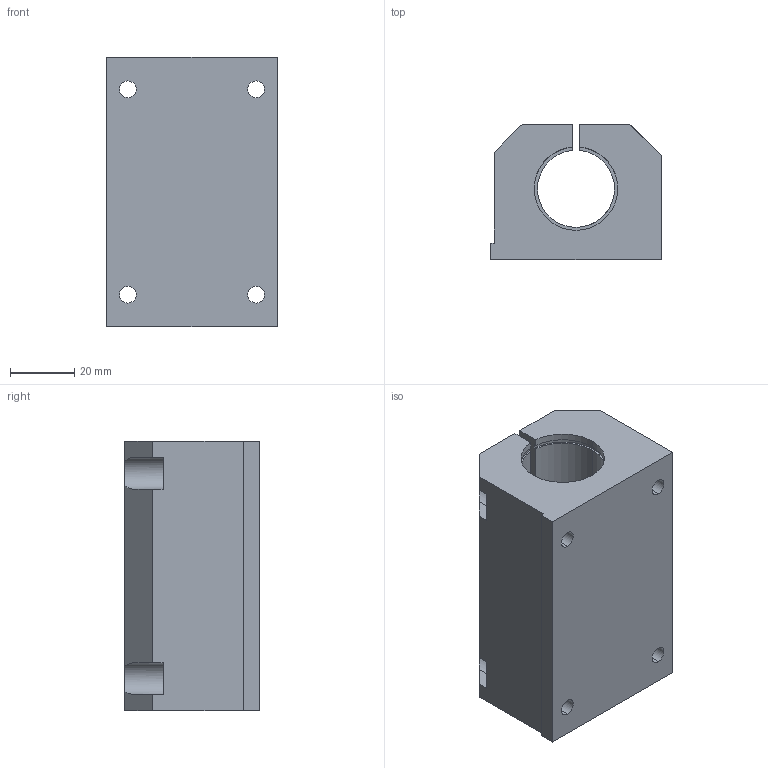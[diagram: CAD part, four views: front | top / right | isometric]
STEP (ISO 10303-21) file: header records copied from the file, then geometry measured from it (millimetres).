
FILE_DESCRIPTION (( 'STEP AP214' ), '1' );
FILE_NAME ('KTGE32-16.step', '2020-03-04T13:26:18', ( '' ), ( '' ), 'SwSTEP 2.0', 'SolidWorks 2019', '' );
FILE_SCHEMA (( 'AUTOMOTIVE_DESIGN' ));
Length unit declared in the file: millimetre
Products named in the file (1): KTGE32-16
Bounding box: 53 x 42 x 84 mm (x, y, z)
Volume: 123295 mm3; surface area: 30046.8 mm2
Topology: 1 solids, 1 shells, 93 faces, 259 edges, 168 vertices
Faces by surface type: cylinder 49, plane 37, cone 7
Entity records: 3238 total; most frequent: CARTESIAN_POINT 609, DIRECTION 520, ORIENTED_EDGE 510, EDGE_CURVE 255, AXIS2_PLACEMENT_3D 187, VERTEX_POINT 168, LINE 146, VECTOR 146
